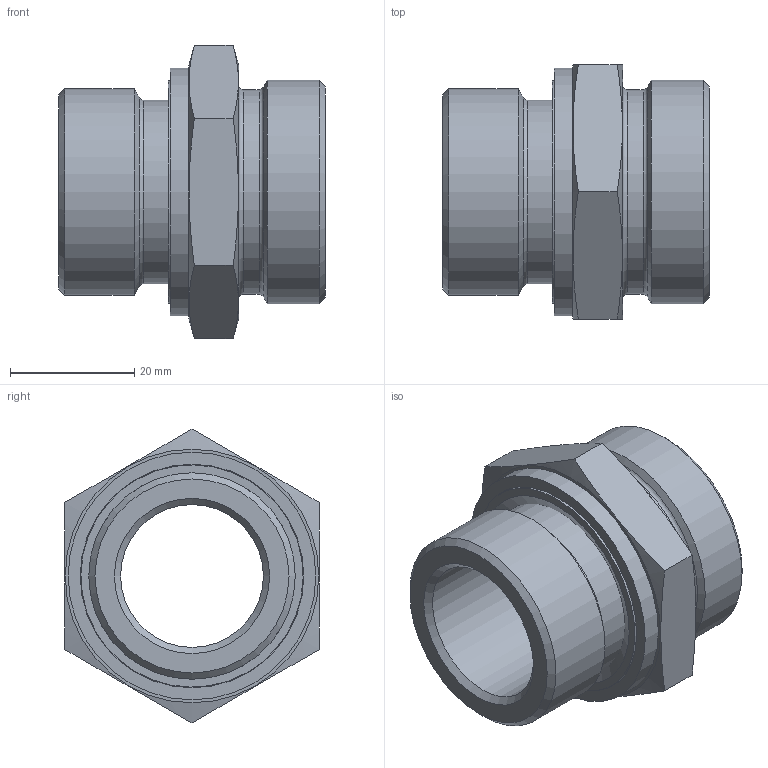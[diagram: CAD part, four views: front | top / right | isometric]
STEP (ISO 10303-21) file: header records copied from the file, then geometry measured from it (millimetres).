
FILE_DESCRIPTION( ( 'Unknown' ), '1' );
FILE_NAME( 'C:/Users/p.nanko/Desktop/3D SR/XGE28LED08.stp', 'Unknown', ( 'Peter Nanko' ), ( 'Armaturen Arndt' ), 'PSStep 14.0', 'Solid Edge ST4', ' ' );
FILE_SCHEMA( ( 'AUTOMOTIVE_DESIGN { 1 0 10303 214 1 1 1 1 }' ) );
Length unit declared in the file: millimetre
Products named in the file (3): Assem1; ED08; XGE28LED083
Assembly tree (2 placements, depth 2):
  Assem1
    ED08
    XGE28LED083
Bounding box: 43 x 41 x 47.34 mm (x, y, z)
Volume: 23815.2 mm3; surface area: 11624.8 mm2
Topology: 2 solids, 2 shells, 38 faces, 75 edges, 46 vertices
Faces by surface type: plane 15, cylinder 10, cone 9, torus 4
Full cylindrical faces by diameter (mm): 23 x1, 28 x1, 29.4 x1, 29.6 x1, 33 x1, 33.249 x1, 35.8 x1, 36 x2, 39.9 x1
Entity records: 1274 total; most frequent: CARTESIAN_POINT 233, DIRECTION 150, ORIENTED_EDGE 98, AXIS2_PLACEMENT_3D 72, EDGE_LOOP 70, FACE_OUTER_BOUND 52, EDGE_CURVE 49, VERTEX_POINT 43
